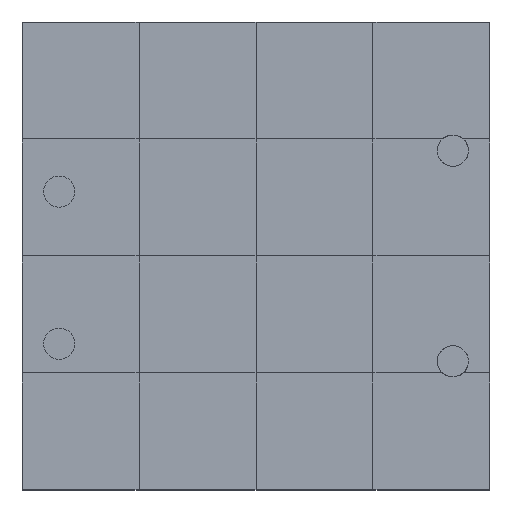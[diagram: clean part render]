
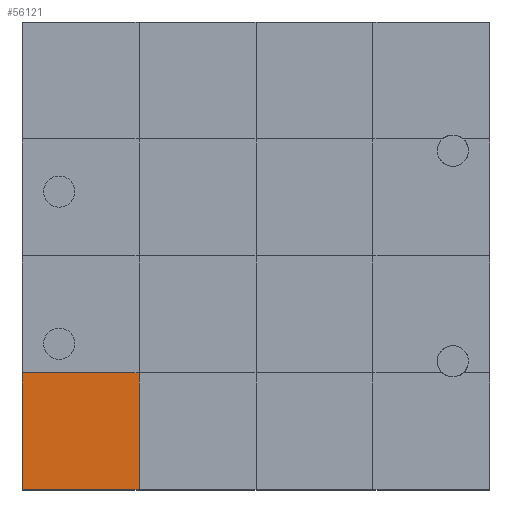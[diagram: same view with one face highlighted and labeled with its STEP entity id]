
A CAD part, top view. The second image highlights one B-rep face of the part: STEP entity #56121.
In plain terms, the highlighted planar face has unit normal (0, 0, 1).
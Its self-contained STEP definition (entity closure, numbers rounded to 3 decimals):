
#55932 = VERTEX_POINT('',#55933);
#55933 = CARTESIAN_POINT('',(0.,0.,1.5));
#55940 = PLANE('',#55941);
#55941 = AXIS2_PLACEMENT_3D('',#55942,#55943,#55944);
#55942 = CARTESIAN_POINT('',(0.,0.,0.));
#55943 = DIRECTION('',(1.,0.,-0.));
#55944 = DIRECTION('',(0.,0.,1.));
#55952 = PLANE('',#55953);
#55953 = AXIS2_PLACEMENT_3D('',#55954,#55955,#55956);
#55954 = CARTESIAN_POINT('',(0.,0.,0.));
#55955 = DIRECTION('',(-0.,1.,0.));
#55956 = DIRECTION('',(0.,0.,1.));
#55993 = VERTEX_POINT('',#55994);
#55994 = CARTESIAN_POINT('',(0.,3.,1.5));
#56020 = EDGE_CURVE('',#55932,#55993,#56021,.T.);
#56021 = SURFACE_CURVE('',#56022,(#56026,#56033),.PCURVE_S1.);
#56022 = LINE('',#56023,#56024);
#56023 = CARTESIAN_POINT('',(0.,0.,1.5));
#56024 = VECTOR('',#56025,1.);
#56025 = DIRECTION('',(-0.,1.,0.));
#56026 = PCURVE('',#55940,#56027);
#56027 = DEFINITIONAL_REPRESENTATION('',(#56028),#56032);
#56028 = LINE('',#56029,#56030);
#56029 = CARTESIAN_POINT('',(1.5,0.));
#56030 = VECTOR('',#56031,1.);
#56031 = DIRECTION('',(0.,-1.));
#56032 = ( GEOMETRIC_REPRESENTATION_CONTEXT(2) 
PARAMETRIC_REPRESENTATION_CONTEXT() REPRESENTATION_CONTEXT('2D SPACE',''
  ) );
#56033 = PCURVE('',#56034,#56039);
#56034 = PLANE('',#56035);
#56035 = AXIS2_PLACEMENT_3D('',#56036,#56037,#56038);
#56036 = CARTESIAN_POINT('',(0.,0.,1.5));
#56037 = DIRECTION('',(0.,0.,1.));
#56038 = DIRECTION('',(1.,0.,-0.));
#56039 = DEFINITIONAL_REPRESENTATION('',(#56040),#56044);
#56040 = LINE('',#56041,#56042);
#56041 = CARTESIAN_POINT('',(0.,0.));
#56042 = VECTOR('',#56043,1.);
#56043 = DIRECTION('',(0.,1.));
#56044 = ( GEOMETRIC_REPRESENTATION_CONTEXT(2) 
PARAMETRIC_REPRESENTATION_CONTEXT() REPRESENTATION_CONTEXT('2D SPACE',''
  ) );
#56073 = EDGE_CURVE('',#55932,#56074,#56076,.T.);
#56074 = VERTEX_POINT('',#56075);
#56075 = CARTESIAN_POINT('',(3.,0.,1.5));
#56076 = SURFACE_CURVE('',#56077,(#56081,#56088),.PCURVE_S1.);
#56077 = LINE('',#56078,#56079);
#56078 = CARTESIAN_POINT('',(0.,0.,1.5));
#56079 = VECTOR('',#56080,1.);
#56080 = DIRECTION('',(1.,0.,-0.));
#56081 = PCURVE('',#55952,#56082);
#56082 = DEFINITIONAL_REPRESENTATION('',(#56083),#56087);
#56083 = LINE('',#56084,#56085);
#56084 = CARTESIAN_POINT('',(1.5,0.));
#56085 = VECTOR('',#56086,1.);
#56086 = DIRECTION('',(0.,1.));
#56087 = ( GEOMETRIC_REPRESENTATION_CONTEXT(2) 
PARAMETRIC_REPRESENTATION_CONTEXT() REPRESENTATION_CONTEXT('2D SPACE',''
  ) );
#56088 = PCURVE('',#56034,#56089);
#56089 = DEFINITIONAL_REPRESENTATION('',(#56090),#56094);
#56090 = LINE('',#56091,#56092);
#56091 = CARTESIAN_POINT('',(0.,0.));
#56092 = VECTOR('',#56093,1.);
#56093 = DIRECTION('',(1.,0.));
#56094 = ( GEOMETRIC_REPRESENTATION_CONTEXT(2) 
PARAMETRIC_REPRESENTATION_CONTEXT() REPRESENTATION_CONTEXT('2D SPACE',''
  ) );
#56121 = ADVANCED_FACE('',(#56122),#56034,.T.);
#56122 = FACE_BOUND('',#56123,.T.);
#56123 = EDGE_LOOP('',(#56124,#56125,#56126,#56154));
#56124 = ORIENTED_EDGE('',*,*,#56020,.F.);
#56125 = ORIENTED_EDGE('',*,*,#56073,.T.);
#56126 = ORIENTED_EDGE('',*,*,#56127,.T.);
#56127 = EDGE_CURVE('',#56074,#56128,#56130,.T.);
#56128 = VERTEX_POINT('',#56129);
#56129 = CARTESIAN_POINT('',(3.,3.,1.5));
#56130 = SURFACE_CURVE('',#56131,(#56135,#56142),.PCURVE_S1.);
#56131 = LINE('',#56132,#56133);
#56132 = CARTESIAN_POINT('',(3.,0.,1.5));
#56133 = VECTOR('',#56134,1.);
#56134 = DIRECTION('',(-0.,1.,0.));
#56135 = PCURVE('',#56034,#56136);
#56136 = DEFINITIONAL_REPRESENTATION('',(#56137),#56141);
#56137 = LINE('',#56138,#56139);
#56138 = CARTESIAN_POINT('',(3.,0.));
#56139 = VECTOR('',#56140,1.);
#56140 = DIRECTION('',(0.,1.));
#56141 = ( GEOMETRIC_REPRESENTATION_CONTEXT(2) 
PARAMETRIC_REPRESENTATION_CONTEXT() REPRESENTATION_CONTEXT('2D SPACE',''
  ) );
#56142 = PCURVE('',#56143,#56148);
#56143 = PLANE('',#56144);
#56144 = AXIS2_PLACEMENT_3D('',#56145,#56146,#56147);
#56145 = CARTESIAN_POINT('',(3.,0.,1.5));
#56146 = DIRECTION('',(0.,0.,1.));
#56147 = DIRECTION('',(1.,0.,-0.));
#56148 = DEFINITIONAL_REPRESENTATION('',(#56149),#56153);
#56149 = LINE('',#56150,#56151);
#56150 = CARTESIAN_POINT('',(0.,0.));
#56151 = VECTOR('',#56152,1.);
#56152 = DIRECTION('',(0.,1.));
#56153 = ( GEOMETRIC_REPRESENTATION_CONTEXT(2) 
PARAMETRIC_REPRESENTATION_CONTEXT() REPRESENTATION_CONTEXT('2D SPACE',''
  ) );
#56154 = ORIENTED_EDGE('',*,*,#56155,.F.);
#56155 = EDGE_CURVE('',#55993,#56128,#56156,.T.);
#56156 = SURFACE_CURVE('',#56157,(#56161,#56168),.PCURVE_S1.);
#56157 = LINE('',#56158,#56159);
#56158 = CARTESIAN_POINT('',(0.,3.,1.5));
#56159 = VECTOR('',#56160,1.);
#56160 = DIRECTION('',(1.,0.,-0.));
#56161 = PCURVE('',#56034,#56162);
#56162 = DEFINITIONAL_REPRESENTATION('',(#56163),#56167);
#56163 = LINE('',#56164,#56165);
#56164 = CARTESIAN_POINT('',(0.,3.));
#56165 = VECTOR('',#56166,1.);
#56166 = DIRECTION('',(1.,0.));
#56167 = ( GEOMETRIC_REPRESENTATION_CONTEXT(2) 
PARAMETRIC_REPRESENTATION_CONTEXT() REPRESENTATION_CONTEXT('2D SPACE',''
  ) );
#56168 = PCURVE('',#56169,#56174);
#56169 = PLANE('',#56170);
#56170 = AXIS2_PLACEMENT_3D('',#56171,#56172,#56173);
#56171 = CARTESIAN_POINT('',(0.,3.,1.5));
#56172 = DIRECTION('',(0.,0.,1.));
#56173 = DIRECTION('',(1.,0.,-0.));
#56174 = DEFINITIONAL_REPRESENTATION('',(#56175),#56179);
#56175 = LINE('',#56176,#56177);
#56176 = CARTESIAN_POINT('',(0.,0.));
#56177 = VECTOR('',#56178,1.);
#56178 = DIRECTION('',(1.,0.));
#56179 = ( GEOMETRIC_REPRESENTATION_CONTEXT(2) 
PARAMETRIC_REPRESENTATION_CONTEXT() REPRESENTATION_CONTEXT('2D SPACE',''
  ) );
